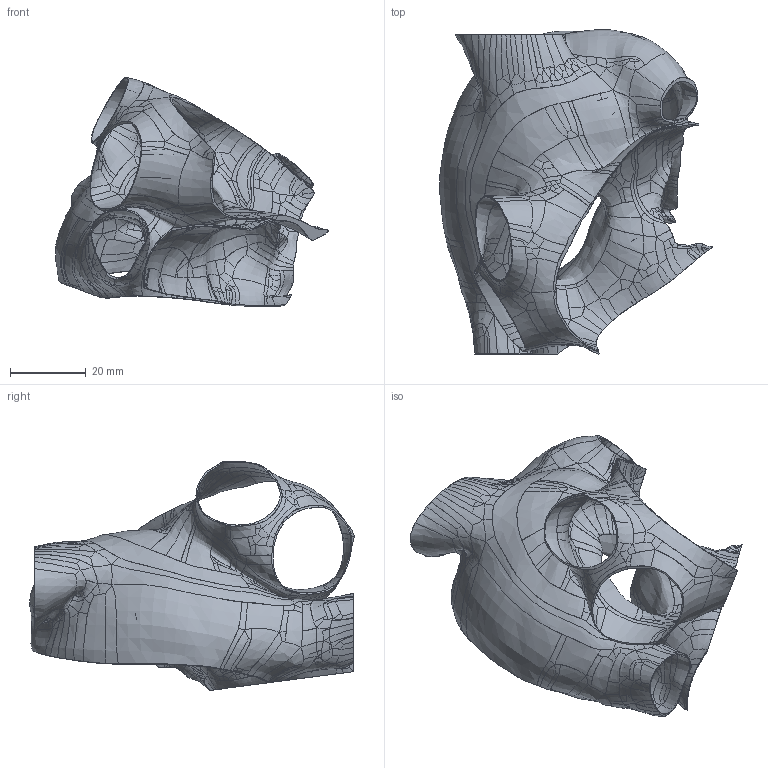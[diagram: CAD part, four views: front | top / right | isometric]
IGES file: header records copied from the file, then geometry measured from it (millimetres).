
Global section: file name: C:\FDA-Septal-Models\0026882\0026882.phase.40.igs; native system: Rhinoceros ( Mar  9 2011 ); preprocessor: Trout Lake IGES 012 Mar  9 2011; date: 120229.153344; units: millimetre
Bounding box: 72.19 x 85.93 x 60.58 mm (x, y, z)
Surface area: 26422.8 mm2 (no closed solid volume)
Topology: 0 solids, 0 shells, 1419 faces, 5672 edges, 5668 vertices
Faces by surface type: bspline 1419
